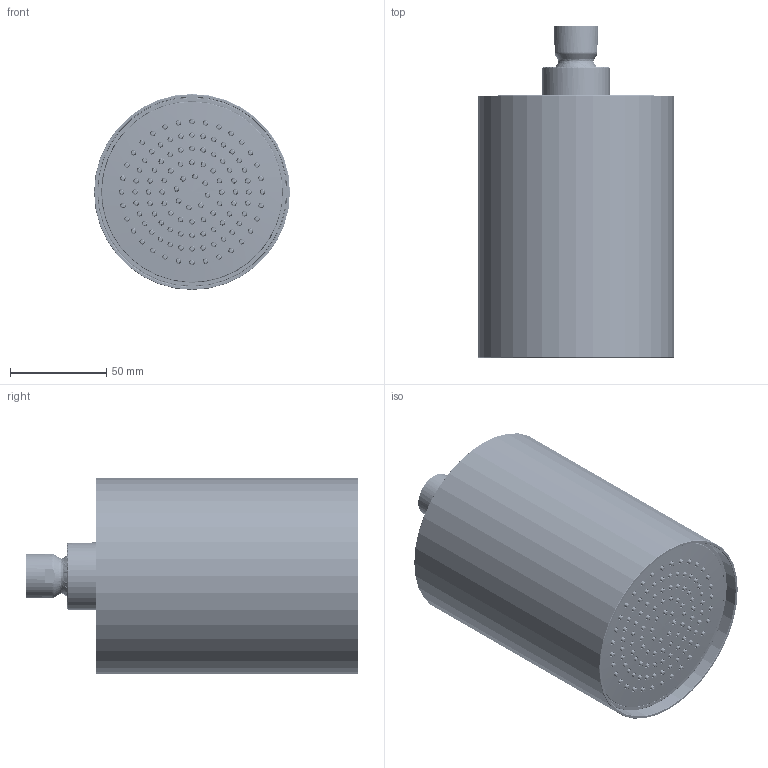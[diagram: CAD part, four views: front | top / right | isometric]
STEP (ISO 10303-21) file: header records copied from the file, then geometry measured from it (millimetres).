
FILE_DESCRIPTION(/* description */ ('Unknown'),/* implementation_level */ '2;1');
FILE_NAME(/* name */ 'RE041',/* time_stamp */ '2023-06-20T16:50:06+02:00',/* author */ ('Unknown'),/* organization */ ('Unknown'),/* preprocessor_version */ 'ST-DEVELOPER v18.102',/* originating_system */ 'Solid Edge',/* authorisation */ 'Unknown');
FILE_SCHEMA (('AUTOMOTIVE_DESIGN {1 0 10303 214 3 1 1}'));
Products named in the file (13): RE041; A011251_01500ZZ; CART-SOFF-VELVET-D100_ASM; A063091; GOMMA-D100-VELVET; A020058_17800ZZ; C092034_00000ZZ; C067048; C020046; C092055_00000ZZ; C099007; C028044_CE100ZZ; C027014
Assembly tree (22 placements, depth 3):
  RE041
    A011251_01500ZZ
    CART-SOFF-VELVET-D100_ASM
      A063091
      GOMMA-D100-VELVET
      A020058_17800ZZ
      C092034_00000ZZ  x8
    C067048
    C020046
    C092055_00000ZZ  x4
    C099007
    C028044_CE100ZZ
    C027014
Bounding box: 101.6 x 172.08 x 101.6 mm (x, y, z)
Volume: 172982.7 mm3; surface area: 191351.6 mm2
Topology: 21 solids, 21 shells, 6249 faces, 18044 edges, 9957 vertices
Faces by surface type: cylinder 2730, torus 1536, plane 801, cone 778, bspline 212, sphere 192
Full cylindrical faces by diameter (mm): 0.1 x1936, 2.4 x8, 4 x44, 6 x1, 7 x1, 7.5 x4, 13.9 x1, 14.5 x1, 14.999 x1, 16.5 x1, 18.5 x1, 19 x4, 23.2 x1, 24 x1, 26.5 x1, 30.5 x1, 33.2 x1, 34.8 x1, 36 x1, 98.6 x2, 99.9 x1, 100.2 x2, 101.6 x1
Entity records: 238443 total; most frequent: CARTESIAN_POINT 89768, DIRECTION 26630, ORIENTED_EDGE 26338, EDGE_CURVE 13169, AXIS2_PLACEMENT_3D 12692, EDGE_LOOP 9451, FACE_BOUND 9451, VERTEX_POINT 8512
